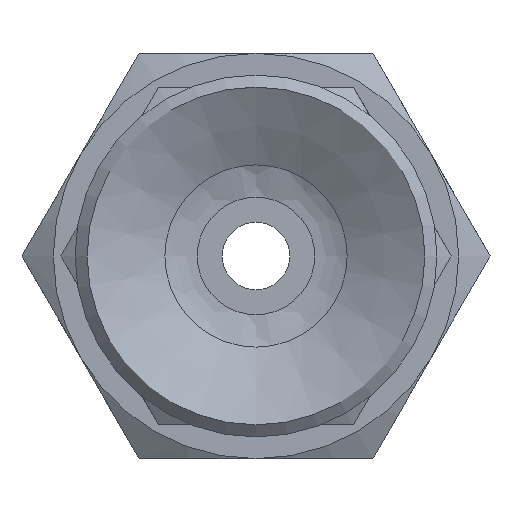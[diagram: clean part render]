
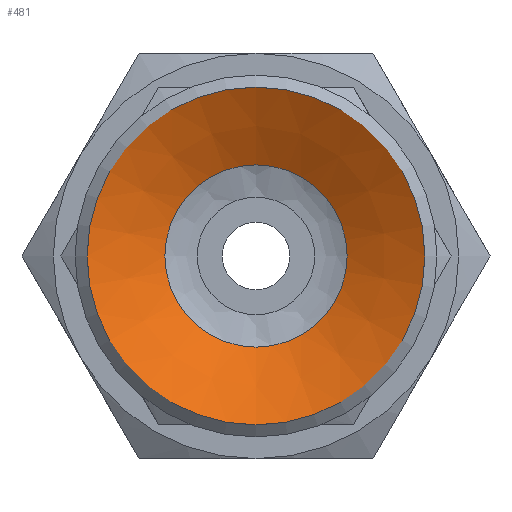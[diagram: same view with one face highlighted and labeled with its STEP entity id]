
A CAD part, front view. The second image highlights one B-rep face of the part: STEP entity #481.
In plain terms, the highlighted conical face has half-angle 61.39 degrees and reference radius 2.25 mm.
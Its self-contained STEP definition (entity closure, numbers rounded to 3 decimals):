
#481=ADVANCED_FACE('',(#701,#702),#703,.F.);
#701=FACE_BOUND('',#932,.T.);
#702=FACE_OUTER_BOUND('',#933,.T.);
#703=CONICAL_SURFACE('',#934,2.25,1.071);
#932=EDGE_LOOP('',(#1514));
#933=EDGE_LOOP('',(#1515));
#934=AXIS2_PLACEMENT_3D('',#1516,#1517,#1518);
#1514=ORIENTED_EDGE('',*,*,#1685,.T.);
#1515=ORIENTED_EDGE('',*,*,#1678,.T.);
#1516=CARTESIAN_POINT('',(0.0,1.5,0.0));
#1517=DIRECTION('',(-0.0,-1.0,0.));
#1518=DIRECTION('',(0.0,0.,-1.0));
#1678=EDGE_CURVE('',#1920,#1920,#1921,.T.);
#1685=EDGE_CURVE('',#1934,#1934,#1935,.T.);
#1920=VERTEX_POINT('',#2480);
#1921=CIRCLE('',#2481,5.);
#1934=VERTEX_POINT('',#2494);
#1935=CIRCLE('',#2495,2.698);
#2480=CARTESIAN_POINT('',(0.0,0.,-5.));
#2481=AXIS2_PLACEMENT_3D('',#2719,#2720,#2721);
#2494=CARTESIAN_POINT('',(0.0,1.256,-2.698));
#2495=AXIS2_PLACEMENT_3D('',#2740,#2741,#2742);
#2719=CARTESIAN_POINT('',(0.0,0.0,0.0));
#2720=DIRECTION('',(0.0,-1.0,0.));
#2721=DIRECTION('',(0.0,0.,-1.0));
#2740=CARTESIAN_POINT('',(0.0,1.256,0.0));
#2741=DIRECTION('',(0.0,1.0,0.));
#2742=DIRECTION('',(0.0,0.,-1.0));
